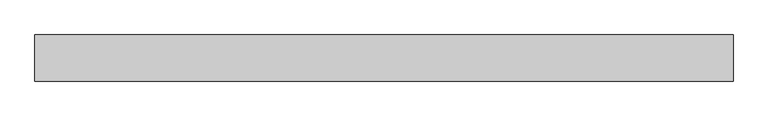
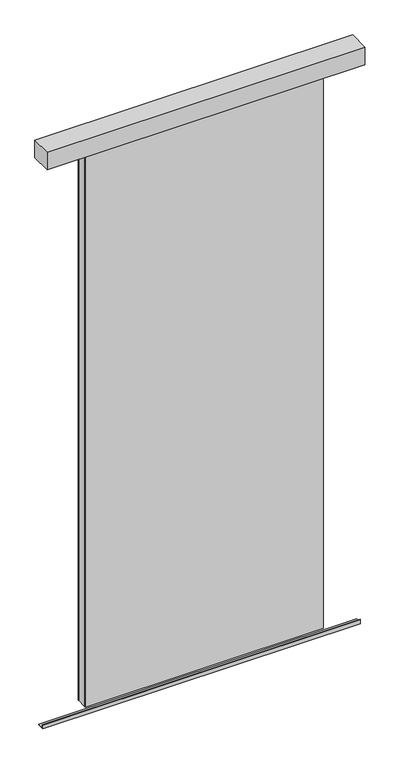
"""IFC4 building model written with IfcOpenShell, lengths in millimetres: proxy geometry, Renson_Amani_Loggia_Canvas_Sliding : Renson_Amani_Loggia_Canvas_Sliding."""

from ifc_helpers import new_model, si_unit, frame, origin, place, context, project, spatial, polyline, outline, extrude, source, transform, mapped, element, save


def generic_models_89bc0f4a(model_context):
    return source(origin(), model_context, "Body", "SweptSolid", [
        extrude(outline(polyline([(-5.9889767, 15.0), (-2.9889767, 15.0), (-2.9889767, 3.0), (20.0110233, 3.0), (20.0110233, 0.0), (-5.9889767, 0.0), (-5.9889767, 15.0)])), frame((-600.0, 0.0, 0.0), z_axis=(1.0, 0.0, 0.0), x_axis=(0.0, 1.0, 0.0)), (0.0, 0.0, 1.0), 1200.0),
        extrude(outline(polyline([(600.0, 46.0), (600.0, -34.0), (-600.0, -34.0), (-600.0, 46.0), (600.0, 46.0)])), frame((0.0, 0.0, 2250.0), z_axis=(0.0, 0.0, 1.0), x_axis=(1.0, 0.0, 0.0)), (0.0, 0.0, 1.0), 70.0),
        extrude(outline(polyline([(450.0, 20.0), (-450.0, 20.0), (-450.0, 23.0), (450.0, 23.0), (450.0, 20.0)])), frame((0.0, 0.0, 45.0), z_axis=(0.0, 0.0, 1.0), x_axis=(1.0, 0.0, 0.0)), (0.0, 0.0, 1.0), 2205.0),
        extrude(outline(polyline([(450.0, -23.0), (-450.0, -23.0), (-450.0, -20.0), (450.0, -20.0), (450.0, -23.0)])), frame((0.0, 0.0, 45.0), z_axis=(0.0, 0.0, 1.0), x_axis=(1.0, 0.0, 0.0)), (0.0, 0.0, 1.0), 2205.0),
        extrude(outline(polyline([(2250.0, -450.0), (45.0, -450.0), (45.0, 450.0), (2250.0, 450.0), (2250.0, -450.0)]), holes=[polyline([(2210.0, 410.0), (85.0, 410.0), (85.0, -410.0), (2210.0, -410.0), (2210.0, 410.0)])]), frame((0.0, -20.0, 0.0), z_axis=(0.0, 1.0, 0.0), x_axis=(0.0, 0.0, 1.0)), (0.0, 0.0, 1.0), 40.0),
    ])


if __name__ == "__main__":
    model = new_model("IFC4")
    model_context = context("Model", 3, world=origin())
    ifc_project = project(units=[si_unit("LENGTHUNIT", "METRE", prefix="MILLI")], contexts=[model_context])
    site = spatial("IfcSite", under=ifc_project)
    building = spatial("IfcBuilding", under=site)
    placement = place(None, origin())
    generic_models_shape = generic_models_89bc0f4a(model_context)
    element("IfcBuildingElementProxy", 1, Name="Renson_Amani_Loggia_Canvas_Sliding : Renson_Amani_Loggia_Canvas_Sliding", ObjectType="Renson_Amani_Loggia_Canvas_Sliding : Renson_Amani_Loggia_Canvas_Sliding", at=placement, inside=building, context=model_context, shape_type="MappedRepresentation", body=[
        mapped(generic_models_shape, transform((0.0, 0.0, 0.0), x_axis=(1.0, 0.0, 0.0), y_axis=(0.0, 1.0, 0.0), z_axis=(0.0, 0.0, 1.0))),
    ])
    save(model, "model.ifc")
